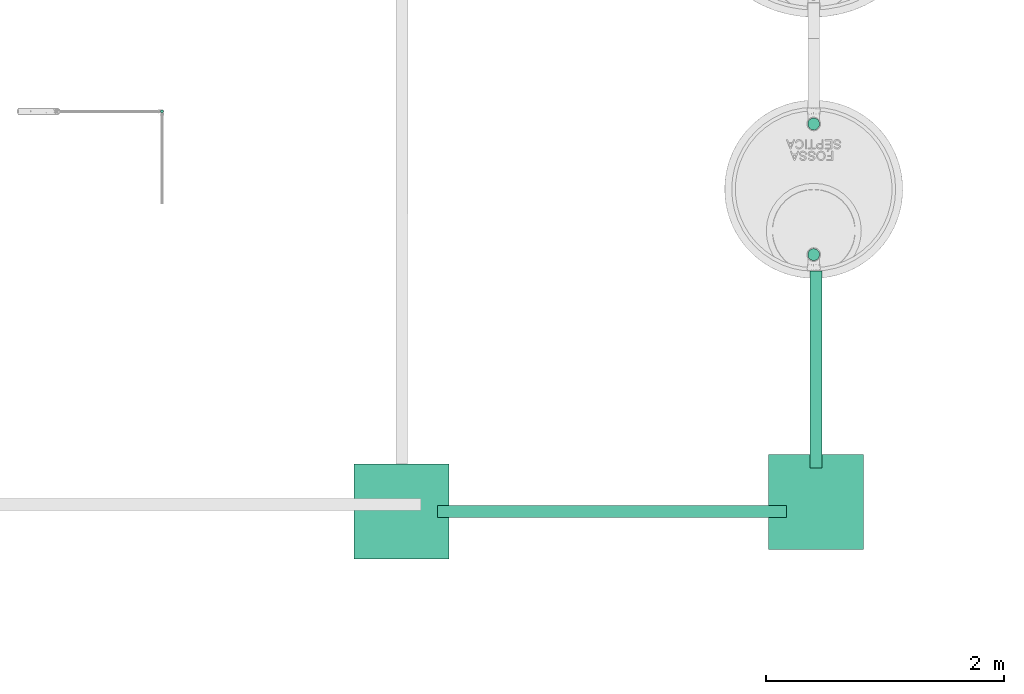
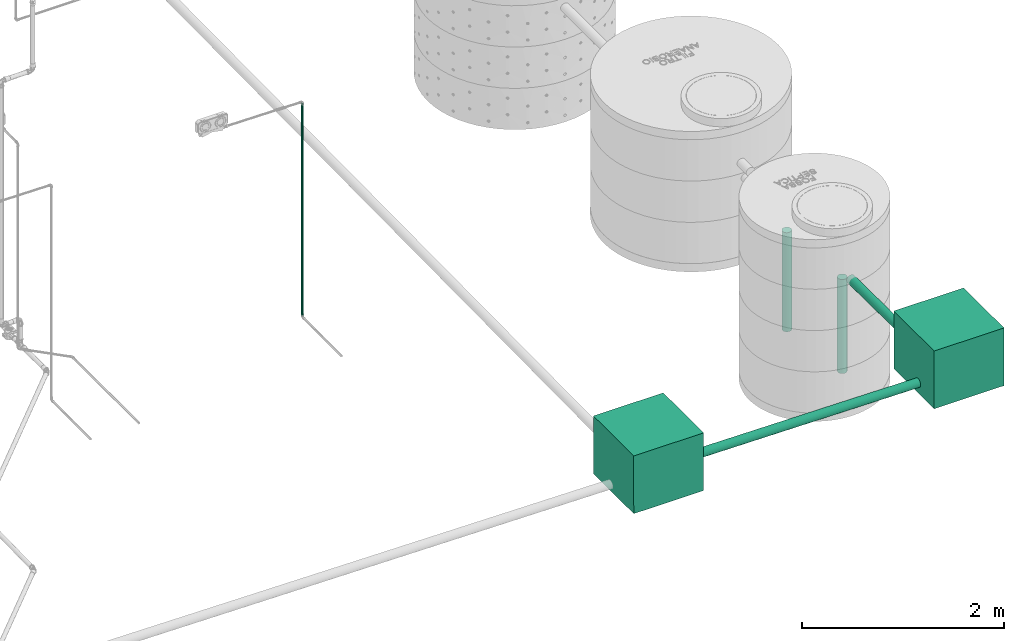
# One storey, part 15 of 589: 5 flow segments, 2 flow terminals.
"""IFC2X3 building model written with IfcOpenShell, lengths in millimetres."""

from ifc_helpers import new_model, entity, si_unit, converted_unit, derived_unit, direction, frame, frame_2d, origin, origin_2d_with_axis, place, context, subcontext, project, spatial, polyline, rectangle, circle, outline, extrude, source, transform, mapped, material, material_list, type_object, type_shapes, element, save


model = new_model("IFC2X3")

# Units and contexts
model_context = context("Model", 3, precision=0.01, world=origin(), true_north=direction((6.123031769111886e-17, 1.0)))
body_context = subcontext(model_context, "Body", "Model", "MODEL_VIEW")
ifc_project = project(units=[si_unit("LENGTHUNIT", "METRE", prefix="MILLI"), si_unit("AREAUNIT", "SQUARE_METRE"), si_unit("VOLUMEUNIT", "CUBIC_METRE"), converted_unit("PLANEANGLEUNIT", "DEGREE", entity("IfcRatioMeasure", 0.017453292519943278), si_unit("PLANEANGLEUNIT", "RADIAN"), dimensions=[0, 0, 0, 0, 0, 0, 0]), si_unit("MASSUNIT", "GRAM", prefix="KILO"), derived_unit("MASSDENSITYUNIT", [(si_unit("MASSUNIT", "GRAM", prefix="KILO"), 1), (si_unit("LENGTHUNIT", "METRE"), -3)]), derived_unit("IONCONCENTRATIONUNIT", [(si_unit("MASSUNIT", "GRAM", prefix="KILO"), 1), (si_unit("LENGTHUNIT", "METRE"), -3)]), derived_unit("MOMENTOFINERTIAUNIT", [(si_unit("LENGTHUNIT", "METRE"), 4)]), si_unit("TIMEUNIT", "SECOND"), si_unit("FREQUENCYUNIT", "HERTZ"), si_unit("THERMODYNAMICTEMPERATUREUNIT", "DEGREE_CELSIUS"), derived_unit("THERMALTRANSMITTANCEUNIT", [(si_unit("MASSUNIT", "GRAM", prefix="KILO"), 1), (si_unit("THERMODYNAMICTEMPERATUREUNIT", "KELVIN"), -1), (si_unit("TIMEUNIT", "SECOND"), -3)]), derived_unit("THERMALCONDUCTANCEUNIT", [(si_unit("MASSUNIT", "GRAM", prefix="KILO"), 1), (si_unit("THERMODYNAMICTEMPERATUREUNIT", "KELVIN"), -1), (si_unit("TIMEUNIT", "SECOND"), -3), (si_unit("LENGTHUNIT", "METRE"), 1)]), derived_unit("VOLUMETRICFLOWRATEUNIT", [(si_unit("LENGTHUNIT", "METRE"), 3), (si_unit("TIMEUNIT", "SECOND"), -1)]), derived_unit("MASSFLOWRATEUNIT", [(si_unit("MASSUNIT", "GRAM", prefix="KILO"), 1), (si_unit("TIMEUNIT", "SECOND"), -1)]), derived_unit("ROTATIONALFREQUENCYUNIT", [(si_unit("TIMEUNIT", "SECOND"), -1)]), si_unit("ELECTRICCURRENTUNIT", "AMPERE"), si_unit("ELECTRICVOLTAGEUNIT", "VOLT"), si_unit("POWERUNIT", "WATT"), si_unit("FORCEUNIT", "NEWTON", prefix="KILO"), si_unit("ILLUMINANCEUNIT", "LUX"), si_unit("LUMINOUSFLUXUNIT", "LUMEN"), si_unit("LUMINOUSINTENSITYUNIT", "CANDELA"), derived_unit("USERDEFINED", [(si_unit("MASSUNIT", "GRAM", prefix="KILO"), -1), (si_unit("LENGTHUNIT", "METRE"), -2), (si_unit("TIMEUNIT", "SECOND"), 3), (si_unit("LUMINOUSFLUXUNIT", "LUMEN"), 1)]), derived_unit("USERDEFINED", [(si_unit("MASSUNIT", "GRAM", prefix="KILO"), 1), (si_unit("TIMEUNIT", "SECOND"), -3), (si_unit("LENGTHUNIT", "METRE"), 3), (si_unit("ELECTRICCURRENTUNIT", "AMPERE"), -2)]), derived_unit("SOUNDPOWERUNIT", [(si_unit("MASSUNIT", "GRAM", prefix="KILO"), 1), (si_unit("TIMEUNIT", "SECOND"), -3), (si_unit("LENGTHUNIT", "METRE"), 2)]), derived_unit("SOUNDPRESSUREUNIT", [(si_unit("MASSUNIT", "GRAM", prefix="KILO"), 1), (si_unit("LENGTHUNIT", "METRE"), -1), (si_unit("TIMEUNIT", "SECOND"), -2)]), derived_unit("LINEARVELOCITYUNIT", [(si_unit("LENGTHUNIT", "METRE"), 1), (si_unit("TIMEUNIT", "SECOND"), -1)]), si_unit("PRESSUREUNIT", "PASCAL"), derived_unit("USERDEFINED", [(si_unit("MASSUNIT", "GRAM", prefix="KILO"), 1), (si_unit("LENGTHUNIT", "METRE"), -2), (si_unit("TIMEUNIT", "SECOND"), -2)]), derived_unit("LINEARFORCEUNIT", [(si_unit("MASSUNIT", "GRAM", prefix="KILO"), 1), (si_unit("TIMEUNIT", "SECOND"), -2)]), derived_unit("PLANARFORCEUNIT", [(si_unit("MASSUNIT", "GRAM", prefix="KILO"), 1), (si_unit("LENGTHUNIT", "METRE"), -1), (si_unit("TIMEUNIT", "SECOND"), -2)]), derived_unit("SPECIFICHEATCAPACITYUNIT", [(si_unit("THERMODYNAMICTEMPERATUREUNIT", "KELVIN"), -1), (si_unit("LENGTHUNIT", "METRE"), 2), (si_unit("TIMEUNIT", "SECOND"), -2)]), derived_unit("HEATINGVALUEUNIT", [(si_unit("LENGTHUNIT", "METRE"), 2), (si_unit("TIMEUNIT", "SECOND"), -2)]), derived_unit("VAPORPERMEABILITYUNIT", [(si_unit("LENGTHUNIT", "METRE"), -1), (si_unit("TIMEUNIT", "SECOND"), 1)]), derived_unit("DYNAMICVISCOSITYUNIT", [(si_unit("MASSUNIT", "GRAM", prefix="KILO"), 1), (si_unit("TIMEUNIT", "SECOND"), -1), (si_unit("LENGTHUNIT", "METRE"), -1)]), derived_unit("THERMALEXPANSIONCOEFFICIENTUNIT", [(si_unit("THERMODYNAMICTEMPERATUREUNIT", "KELVIN"), -1)]), derived_unit("MODULUSOFELASTICITYUNIT", [(si_unit("MASSUNIT", "GRAM", prefix="KILO"), 1), (si_unit("LENGTHUNIT", "METRE"), -1), (si_unit("TIMEUNIT", "SECOND"), -2)]), derived_unit("ISOTHERMALMOISTURECAPACITYUNIT", [(si_unit("LENGTHUNIT", "METRE"), 3), (si_unit("MASSUNIT", "GRAM", prefix="KILO"), -1)]), derived_unit("MOISTUREDIFFUSIVITYUNIT", [(si_unit("TIMEUNIT", "SECOND"), -1), (si_unit("LENGTHUNIT", "METRE"), 2)])], contexts=[model_context])

# Site, building, storey
site_placement = place(None, origin())
site = spatial("IfcSite", under=ifc_project, at=site_placement, Name="Default", CompositionType="ELEMENT")
building_placement = place(site_placement, origin())
building = spatial("IfcBuilding", under=site, at=building_placement, CompositionType="ELEMENT")
storey_placement = place(building_placement, frame((0.0, 0.0, 100.0)))
storey = spatial("IfcBuildingStorey", under=building, at=storey_placement, Name="TÉRREO", CompositionType="ELEMENT", Elevation=100.0)

# Flow segments
pipe_segment_type_1 = type_object("IfcPipeSegmentType", Name="Tipos de tubos:PVC Esgoto Série Normal", PredefinedType="NOTDEFINED")
flow_segment_1_placement = place(storey_placement, origin())
element("IfcFlowSegment", 1, at=flow_segment_1_placement, inside=storey, type_object=pipe_segment_type_1, Name="Tipos de tubos:PVC Esgoto Série Normal", ObjectType="Tipos de tubos:PVC Esgoto Série Normal", context=body_context, shape_type="SweptSolid", body=[
    extrude(circle(Radius=50.0, at=frame_2d((0.0, 1.0828129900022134e-14), x_axis=(1.0, 0.0))), frame((20074.419956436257, -9231.478558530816, -689.5203151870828), z_axis=(0.0, -0.9999500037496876, 0.009999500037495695), x_axis=(-1.0, 0.0, 0.0)), (0.0, 0.0, 1.0), 1660.0000000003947),
])
flow_segment_2_placement = place(storey_placement, origin())
element("IfcFlowSegment", 2, at=flow_segment_2_placement, inside=storey, type_object=pipe_segment_type_1, Name="Tipos de tubos:PVC Esgoto Série Normal", ObjectType="Tipos de tubos:PVC Esgoto Série Normal", context=body_context, shape_type="SweptSolid", body=[
    extrude(circle(Radius=50.0, at=origin_2d_with_axis()), frame((20055.66719650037, -9094.002126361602, -1879.0499999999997)), (0.0, 0.0, 1.0), 1140.0),
])
flow_segment_3_placement = place(storey_placement, origin())
element("IfcFlowSegment", 3, at=flow_segment_3_placement, inside=storey, type_object=pipe_segment_type_1, Name="Tipos de tubos:PVC Esgoto Série Normal", ObjectType="Tipos de tubos:PVC Esgoto Série Normal", context=body_context, shape_type="SweptSolid", body=[
    extrude(circle(Radius=50.0, at=origin_2d_with_axis()), frame((20055.667196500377, -7994.002126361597, -2039.0499999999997)), (0.0, 0.0, 1.0), 1200.0),
])
flow_segment_4_placement = place(storey_placement, origin())
element("IfcFlowSegment", 4, at=flow_segment_4_placement, inside=storey, type_object=pipe_segment_type_1, Name="Tipos de tubos:PVC Esgoto Série Normal", ObjectType="Tipos de tubos:PVC Esgoto Série Normal", context=body_context, shape_type="SweptSolid", body=[
    extrude(circle(Radius=50.0, at=frame_2d((0.0, -6.767666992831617e-14), x_axis=(1.0, 0.0))), frame((16886.44688000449, -11258.720120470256, -550.0), z_axis=(0.9999626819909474, 0.0, -0.008639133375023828), x_axis=(0.0, -1.0, 0.0)), (0.0, 0.0, 1.0), 2940.109719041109),
])
pipe_segment_type_2 = type_object("IfcPipeSegmentType", Name="Tipos de tubos:PVC Marrom Soldável", PredefinedType="NOTDEFINED")
flow_segment_5_placement = place(storey_placement, origin())
element("IfcFlowSegment", 5, at=flow_segment_5_placement, inside=storey, type_object=pipe_segment_type_2, Name="Tipos de tubos:PVC Marrom Soldável", ObjectType="Tipos de tubos:PVC Marrom Soldável", context=body_context, shape_type="SweptSolid", body=[
    extrude(circle(Radius=12.5, at=frame_2d((0.0, -1.0828671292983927e-12), x_axis=(1.0, 0.0))), frame((14568.708858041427, -7887.861220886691, -21.95547934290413)), (0.0, 0.0, 1.0), 2575.9543560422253),
])

# Flow terminals
ifc_material_1 = material(Name="<Unnamed>")
ifc_material_2 = material(Name="Tijolo, Comum")
ifc_material_3 = material(Name=".CONCRETO")
ifc_material_list = material_list([ifc_material_1, ifc_material_2, ifc_material_3])
distribution_element_type_1 = type_object("IfcDistributionElementType", Name="Caixa em Alvenaria_Rodrigo MEP:Caixa de Inspeçao de Esgoto 60x60cm - CI", material=ifc_material_list)
shared_shape_1 = source(origin(), body_context, "Body", "SweptSolid", [
    extrude(circle(Radius=50.0, at=frame_2d((1.6919798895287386e-14, -2.0303758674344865e-13), x_axis=(1.0, 0.0))), frame((297.0, -150.0, -550.0), z_axis=(1.0, 0.0, 0.0), x_axis=(0.0, -1.0, 0.0)), (0.0, 0.0, 1.0), 2.9999999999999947),
    extrude(circle(Radius=50.0, at=frame_2d((0.0, -2.0303758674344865e-13), x_axis=(1.0, 0.0))), frame((297.0, 150.0, -550.0), z_axis=(1.0, 0.0, 0.0), x_axis=(0.0, -1.0, 0.0)), (0.0, 0.0, 1.0), 2.9999999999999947),
    extrude(circle(Radius=50.0, at=frame_2d((0.0, -6.767919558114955e-14), x_axis=(1.0, 0.0))), frame((-300.0, 136.27378055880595, -550.0), z_axis=(1.0, 0.0, 0.0), x_axis=(0.0, 1.0, 0.0)), (0.0, 0.0, 1.0), 2.9999999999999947),
    extrude(circle(Radius=50.0, at=frame_2d((-1.6919798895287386e-14, -6.767919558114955e-14), x_axis=(1.0, 0.0))), frame((-300.0, -150.0, -550.0), z_axis=(1.0, 0.0, 0.0), x_axis=(0.0, 1.0, 0.0)), (0.0, 0.0, 1.0), 2.9999999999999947),
    extrude(circle(Radius=50.0, at=frame_2d((-1.6919798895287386e-14, -2.707167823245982e-13), x_axis=(1.0, 0.0))), frame((150.0, 297.0, -550.0), z_axis=(0.0, 1.0, 0.0), x_axis=(1.0, 0.0, 0.0)), (0.0, 0.0, 1.0), 2.9999999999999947),
    extrude(circle(Radius=50.0, at=frame_2d((0.0, -2.707167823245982e-13), x_axis=(1.0, 0.0))), frame((-150.0, 297.0, -550.0), z_axis=(0.0, 1.0, 0.0), x_axis=(1.0, 0.0, 0.0)), (0.0, 0.0, 1.0), 2.9999999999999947),
    extrude(circle(Radius=50.0, at=frame_2d((-1.307310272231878e-17, -2.707167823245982e-13), x_axis=(1.0, 0.0))), frame((297.0, 0.0, -550.0), z_axis=(1.0, 0.0, 0.0), x_axis=(0.0, -1.0, 0.0)), (0.0, 0.0, 1.0), 2.9999999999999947),
    extrude(circle(Radius=50.0, at=frame_2d((1.9003610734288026e-15, -6.767919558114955e-14), x_axis=(1.0, 0.0))), frame((-300.0, 0.0, -550.0), z_axis=(1.0, 0.0, 0.0), x_axis=(0.0, 1.0, 0.0)), (0.0, 0.0, 1.0), 2.9999999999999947),
    extrude(circle(Radius=50.0, at=frame_2d((-1.9105340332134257e-15, -2.707167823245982e-13), x_axis=(1.0, 0.0))), frame((0.0, 297.0, -550.0), z_axis=(0.0, 1.0, 0.0), x_axis=(1.0, 0.0, 0.0)), (0.0, 0.0, 1.0), 2.9999999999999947),
    extrude(outline(polyline([(-400.0, -400.0), (400.0, -400.0), (400.0, 400.0), (-400.0, 400.0), (-400.0, -400.0)]), holes=[polyline([(-300.0, 300.0), (300.0, 300.0), (300.0, -300.0), (-300.0, -300.0), (-300.0, 300.0)])]), frame((0.0, 0.0, -600.0)), (0.0, 0.0, 1.0), 599.9999999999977),
    extrude(rectangle(XDim=798.0000000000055, YDim=798.0, at=origin_2d_with_axis()), frame((0.0, 0.0, -700.0), z_axis=(0.0, 0.0, 1.0), x_axis=(-1.0, 0.0, 0.0)), (0.0, 0.0, 1.0), 99.99999999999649),
    extrude(circle(Radius=50.0, at=frame_2d((0.0, -2.707167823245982e-13), x_axis=(1.0, 0.0))), frame((0.0, -300.0, -550.0), z_axis=(0.0, 1.0, 0.0), x_axis=(1.0, 0.0, 0.0)), (0.0, 0.0, 1.0), 0.9999999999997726),
    extrude(rectangle(XDim=599.9999999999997, YDim=599.9999999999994, at=origin_2d_with_axis()), frame((0.0, 0.0, -50.51158969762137), z_axis=(0.0, 0.0, 1.0), x_axis=(0.0, 1.0, 0.0)), (0.0, 0.0, 1.0), 50.51158969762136),
])
type_shapes(distribution_element_type_1, [shared_shape_1])
flow_terminal_1_placement = place(storey_placement, frame((16586.44688000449, -11258.720120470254, 0.0), z_axis=(0.0, 0.0, 1.0), x_axis=(0.0, 1.0, 0.0)))
element("IfcFlowTerminal", 6, at=flow_terminal_1_placement, inside=storey, type_object=distribution_element_type_1, material=ifc_material_list, Name="Caixa em Alvenaria_Rodrigo MEP:Caixa de Inspeçao de Esgoto 60x60cm - CI", ObjectType="Caixa em Alvenaria_Rodrigo MEP:Caixa de Inspeçao de Esgoto 60x60cm - CI", context=body_context, shape_type="MappedRepresentation", body=[
    mapped(shared_shape_1, transform((0.0, 0.0, 0.0), scale=1.0)),
])
distribution_element_type_2 = type_object("IfcDistributionElementType", Name="Caixa em Alvenaria_Rodrigo MEP:Caixa de Inspeçao de Esgoto 60x60cm - CI", material=ifc_material_list)
shared_shape_2 = source(origin(), body_context, "Body", "SweptSolid", [
    extrude(circle(Radius=50.0, at=frame_2d((1.6919798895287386e-14, -2.0303758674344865e-13), x_axis=(1.0, 0.0))), frame((297.0, -150.0, -550.0), z_axis=(1.0, 0.0, 0.0), x_axis=(0.0, -1.0, 0.0)), (0.0, 0.0, 1.0), 2.9999999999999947),
    extrude(circle(Radius=50.0, at=frame_2d((0.0, -2.0303758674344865e-13), x_axis=(1.0, 0.0))), frame((297.0, 150.0, -550.0), z_axis=(1.0, 0.0, 0.0), x_axis=(0.0, -1.0, 0.0)), (0.0, 0.0, 1.0), 2.9999999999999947),
    extrude(circle(Radius=50.0, at=frame_2d((0.0, -6.767919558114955e-14), x_axis=(1.0, 0.0))), frame((-300.0, 136.27378055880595, -550.0), z_axis=(1.0, 0.0, 0.0), x_axis=(0.0, 1.0, 0.0)), (0.0, 0.0, 1.0), 2.9999999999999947),
    extrude(circle(Radius=50.0, at=frame_2d((-1.6919798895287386e-14, -6.767919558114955e-14), x_axis=(1.0, 0.0))), frame((-300.0, -150.0, -550.0), z_axis=(1.0, 0.0, 0.0), x_axis=(0.0, 1.0, 0.0)), (0.0, 0.0, 1.0), 2.9999999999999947),
    extrude(circle(Radius=50.0, at=frame_2d((-1.6919798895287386e-14, -2.707167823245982e-13), x_axis=(1.0, 0.0))), frame((150.0, 297.0, -550.0), z_axis=(0.0, 1.0, 0.0), x_axis=(1.0, 0.0, 0.0)), (0.0, 0.0, 1.0), 2.9999999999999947),
    extrude(circle(Radius=50.0, at=frame_2d((0.0, -2.707167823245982e-13), x_axis=(1.0, 0.0))), frame((-150.0, 297.0, -550.0), z_axis=(0.0, 1.0, 0.0), x_axis=(1.0, 0.0, 0.0)), (0.0, 0.0, 1.0), 2.9999999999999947),
    extrude(circle(Radius=50.0, at=frame_2d((-1.307310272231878e-17, -2.707167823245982e-13), x_axis=(1.0, 0.0))), frame((297.0, 0.0, -550.0), z_axis=(1.0, 0.0, 0.0), x_axis=(0.0, -1.0, 0.0)), (0.0, 0.0, 1.0), 2.9999999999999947),
    extrude(circle(Radius=50.0, at=frame_2d((1.9003610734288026e-15, -6.767919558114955e-14), x_axis=(1.0, 0.0))), frame((-300.0, 0.0, -550.0), z_axis=(1.0, 0.0, 0.0), x_axis=(0.0, 1.0, 0.0)), (0.0, 0.0, 1.0), 2.9999999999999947),
    extrude(circle(Radius=50.0, at=frame_2d((-1.9105340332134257e-15, -2.707167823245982e-13), x_axis=(1.0, 0.0))), frame((0.0, 297.0, -550.0), z_axis=(0.0, 1.0, 0.0), x_axis=(1.0, 0.0, 0.0)), (0.0, 0.0, 1.0), 2.9999999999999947),
    extrude(outline(polyline([(-400.0, -400.0), (400.0, -400.0), (400.0, 400.0), (-400.0, 400.0), (-400.0, -400.0)]), holes=[polyline([(-300.0, 300.0), (300.0, 300.0), (300.0, -300.0), (-300.0, -300.0), (-300.0, 300.0)])]), frame((0.0, 0.0, -600.0)), (0.0, 0.0, 1.0), 599.9999999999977),
    extrude(rectangle(XDim=798.0000000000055, YDim=798.0, at=origin_2d_with_axis()), frame((0.0, 0.0, -700.0), z_axis=(0.0, 0.0, 1.0), x_axis=(-1.0, 0.0, 0.0)), (0.0, 0.0, 1.0), 99.99999999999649),
    extrude(circle(Radius=55.0, at=frame_2d((0.0, -2.707167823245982e-13), x_axis=(1.0, 0.0))), frame((0.0, -300.0, -550.0), z_axis=(0.0, 1.0, 0.0), x_axis=(1.0, 0.0, 0.0)), (0.0, 0.0, 1.0), 0.9999999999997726),
    extrude(rectangle(XDim=599.9999999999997, YDim=599.9999999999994, at=origin_2d_with_axis()), frame((0.0, 0.0, -50.51158969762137), z_axis=(0.0, 0.0, 1.0), x_axis=(0.0, 1.0, 0.0)), (0.0, 0.0, 1.0), 50.51158969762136),
])
type_shapes(distribution_element_type_2, [shared_shape_2])
flow_terminal_2_placement = place(storey_placement, frame((20074.419956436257, -11177.101274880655, 0.0), z_axis=(0.0, 0.0, 1.0), x_axis=(0.0, 1.0, 0.0)))
element("IfcFlowTerminal", 7, at=flow_terminal_2_placement, inside=storey, type_object=distribution_element_type_2, material=ifc_material_list, Name="Caixa em Alvenaria_Rodrigo MEP:Caixa de Inspeçao de Esgoto 60x60cm - CI", ObjectType="Caixa em Alvenaria_Rodrigo MEP:Caixa de Inspeçao de Esgoto 60x60cm - CI", context=body_context, shape_type="MappedRepresentation", body=[
    mapped(shared_shape_2, transform((0.0, 0.0, 0.0), scale=1.0)),
])

save(model, "model.ifc")
